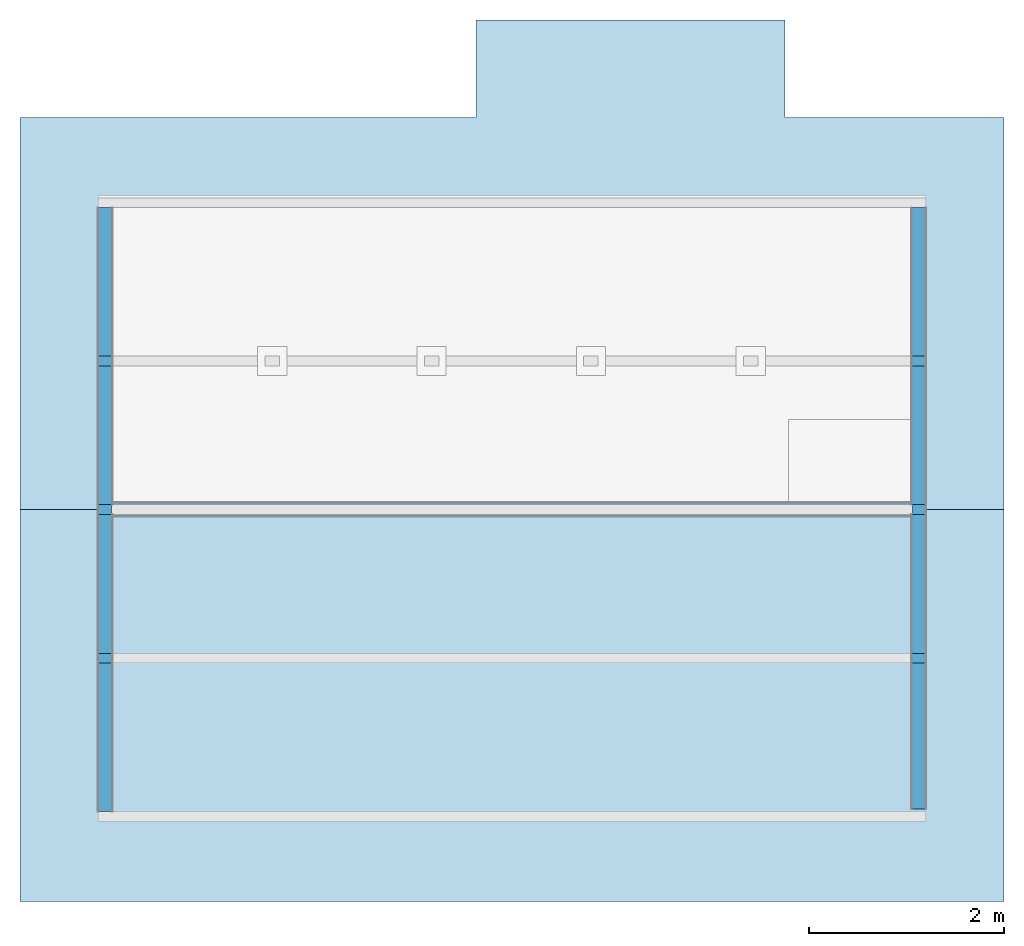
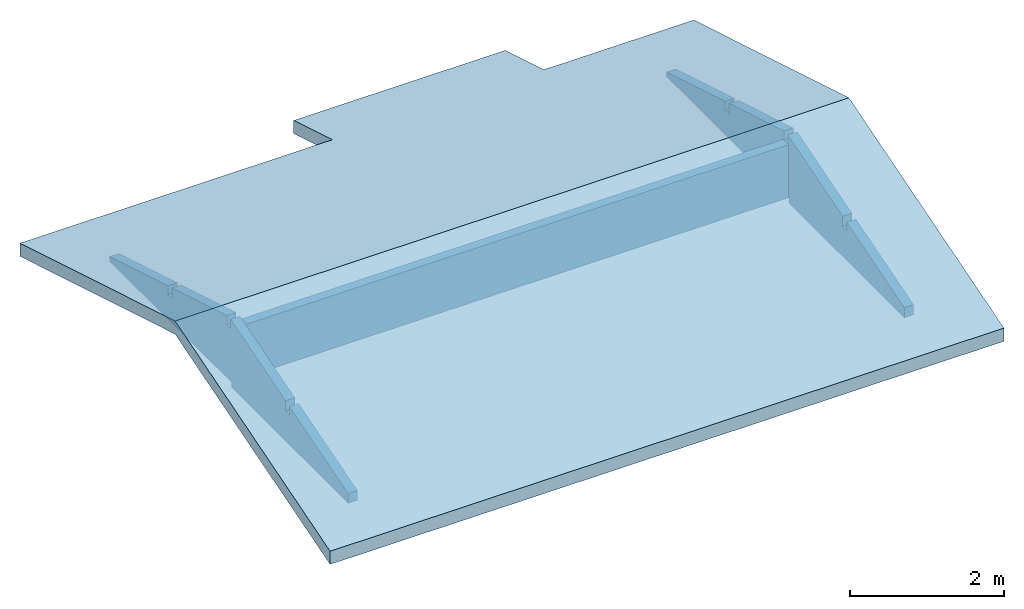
# One storey, part 2 of 4: 3 building element parts, 1 roof, 3 elements without a shape of their own.
"""IFC2X3 building model written with IfcOpenShell, lengths in millimetres."""

from ifc_helpers import new_model, entity, si_unit, converted_unit, derived_unit, money_unit, direction, frame, origin_with_axes, place, context, subcontext, project, spatial, polyline, outline, extrude, boolean, faceted_brep, material, type_object, element, aggregate, save


model = new_model("IFC2X3")

# Units and contexts
model_context = context("Model", 3, precision=0.01, world=origin_with_axes(), true_north=direction((0.0, 1.0)))
body_context = subcontext(model_context, "Body", "Model", "MODEL_VIEW")
ifc_project = project(units=[si_unit("LENGTHUNIT", "METRE", prefix="MILLI"), si_unit("AREAUNIT", "SQUARE_METRE"), si_unit("VOLUMEUNIT", "CUBIC_METRE"), converted_unit("PLANEANGLEUNIT", "DEGREE", entity("IfcPlaneAngleMeasure", 0.0174532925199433), si_unit("PLANEANGLEUNIT", "RADIAN"), dimensions=[0, 0, 0, 0, 0, 0, 0]), money_unit("USD"), converted_unit("TIMEUNIT", "Year", entity("IfcTimeMeasure", 31557600.0), si_unit("TIMEUNIT", "SECOND"), dimensions=[0, 0, 1, 0, 0, 0, 0]), si_unit("MASSUNIT", "GRAM", prefix="KILO"), si_unit("THERMODYNAMICTEMPERATUREUNIT", "DEGREE_CELSIUS"), si_unit("LUMINOUSINTENSITYUNIT", "LUMEN"), si_unit("ENERGYUNIT", "JOULE", prefix="MEGA"), derived_unit("THERMALCONDUCTANCEUNIT", [(si_unit("POWERUNIT", "WATT"), 1), (si_unit("LENGTHUNIT", "METRE"), -1), (si_unit("THERMODYNAMICTEMPERATUREUNIT", "KELVIN"), -1)]), derived_unit("SPECIFICHEATCAPACITYUNIT", [(si_unit("ENERGYUNIT", "JOULE"), 1), (si_unit("MASSUNIT", "GRAM", prefix="KILO"), -1), (si_unit("THERMODYNAMICTEMPERATUREUNIT", "KELVIN"), -1)]), derived_unit("MASSDENSITYUNIT", [(si_unit("MASSUNIT", "GRAM", prefix="KILO"), 1), (si_unit("VOLUMEUNIT", "CUBIC_METRE"), -1)])], contexts=[model_context])

# Site, building, storey
site_placement = place(None, origin_with_axes())
site = spatial("IfcSite", under=ifc_project, at=site_placement, Name="Local", CompositionType="ELEMENT")
building_placement = place(site_placement, origin_with_axes())
building = spatial("IfcBuilding", under=site, at=building_placement, Name="Construção", CompositionType="ELEMENT")
storey_placement = place(building_placement, frame((0.0, 0.0, 2500.0), z_axis=(0.0, 0.0, 1.0), x_axis=(1.0, 0.0, 0.0)))
storey = spatial("IfcBuildingStorey", under=building, at=storey_placement, Name="Cobertura", CompositionType="ELEMENT", Elevation=2500.0)

# Roof
ifc_material_1 = material(Name="Telha - Cobertura")
roof_placement = place(storey_placement, frame((4249.999999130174, 3725.000000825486, 115.4517409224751), z_axis=(0.0, 0.0, 1.0), x_axis=(1.0, 0.0, 0.0)))
element("IfcRoof", 1, at=roof_placement, inside=storey, material=ifc_material_1, Name="Cobert-01", ShapeType="NOTDEFINED", context=body_context, shape_type="Brep", body=[
    faceted_brep([(-5050.000000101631, 3525.000000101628, -31.19386988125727), (-5050.000000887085, -500.000000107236, 1176.306130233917), (5049.999999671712, -500.000000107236, 1176.306130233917), (5050.000000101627, 3525.000000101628, -31.19386988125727), (2800.000000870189, 3525.000000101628, -31.19386988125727), (2800.000000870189, 4525.000000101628, -331.1938698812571), (-369.9999991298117, 4525.000000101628, -331.1938698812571), (-369.9999991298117, 3525.000000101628, -31.19386988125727), (-5050.000000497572, 3525.000000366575, -240.0000003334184), (-5050.000001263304, -499.9999997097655, 967.4999999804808), (5050.000000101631, -4525.000000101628, -31.19386976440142), (-5050.000000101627, -4525.000000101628, -31.19386976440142), (5049.999999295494, -499.9999997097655, 967.4999999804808), (5050.000000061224, 3525.000000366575, -240.0000003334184), (2800.000000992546, 3525.000000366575, -240.0000003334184), (2800.000000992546, 4525.000000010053, -540.000000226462), (-369.9999989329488, 4525.000000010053, -540.000000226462), (-369.9999989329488, 3525.000000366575, -240.0000003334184), (-5050.000000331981, -4524.999999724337, -240.0000000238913), (5050.000000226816, -4524.999999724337, -240.0000000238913)], [[[0, 1, 2, 3, 4, 5, 6, 7]], [[8, 9, 1, 0]], [[10, 2, 1, 11]], [[3, 2, 12, 13]], [[13, 14, 4, 3]], [[14, 15, 5, 4]], [[15, 16, 6, 5]], [[16, 17, 7, 6]], [[17, 8, 0, 7]], [[13, 12, 9, 8, 17, 16, 15, 14]], [[11, 1, 9, 18]], [[19, 12, 2, 10]], [[18, 19, 10, 11]], [[18, 9, 12, 19]]]),
])

# Wall, building element part
wall_type = type_object("IfcWallType", Name="Alvenaria 140, Rebocada 2 Faces 150", PredefinedType="NOTDEFINED")
wall_1_placement = place(storey_placement, frame((8500.0, 149.9999999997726, 0.0), z_axis=(0.0, 0.0, 1.0), x_axis=(0.0, 1.0, 0.0)))
wall_1 = element("IfcWall", 2, at=wall_1_placement, inside=storey, type_object=wall_type, Name="Parede-10")
ifc_material_2 = material(Name="Bloco de Concreto - Estrutural DEF")
building_element_part_1_placement = place(wall_1_placement, origin_with_axes())
building_element_part_1 = element("IfcBuildingElementPart", 3, at=building_element_part_1_placement, material=ifc_material_2, Name="Bloco de Concreto - Estrutural DEF", context=body_context, shape_type="CSG", body=[
    boolean("DIFFERENCE", boolean("DIFFERENCE", boolean("DIFFERENCE", boolean("DIFFERENCE", boolean("DIFFERENCE", extrude(outline(polyline([(0.0, 5.000000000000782), (6175.000000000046, 5.000000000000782), (6175.000000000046, 144.9999999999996), (0.0, 144.9999999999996), (0.0, 5.000000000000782)])), origin_with_axes(), (0.0, 0.0, 1.0), 1176.306130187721), faceted_brep([(6175.000000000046, 5.000000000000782, 80.00000000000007), (6175.000000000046, 0.0, 80.00000000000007), (6175.000000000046, 0.0, 0.0), (6175.000000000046, 5.000000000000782, 0.0), (3000.000000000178, 0.0, 80.00000000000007), (3000.000000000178, 5.000000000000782, 80.00000000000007), (3000.000000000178, 0.0, 0.0), (3000.000000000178, 5.000000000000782, 0.0)], [[[0, 1, 2, 3]], [[4, 1, 0, 5]], [[4, 6, 2, 1]], [[6, 7, 3, 2]], [[5, 0, 3, 7]], [[6, 4, 5, 7]]])), faceted_brep([(4650.000000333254, 0.0, 480.4517407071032), (4650.000000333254, 0.0, 610.4517409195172), (6175.000000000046, 0.0, 152.951741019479), (6175.000000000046, 0.0, 1176.306130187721), (0.0, 0.0, 1176.306130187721), (0.0, 0.0, 160.4517405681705), (1500.000000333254, 0.0, 610.4517406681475), (1500.000000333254, 0.0, 480.4517406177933), (1600.000000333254, 0.0, 480.4517406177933), (1600.000000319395, 0.0, 640.4517406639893), (3025.000000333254, 0.0, 1067.951740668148), (3025.000000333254, 0.0, 922.9517406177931), (3125.000000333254, 0.0, 922.9517406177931), (3125.000000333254, 0.0, 1067.951740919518), (4550.000000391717, 0.0, 640.4517409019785), (4550.000000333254, 0.0, 480.4517407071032), (4650.000000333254, 5.000000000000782, 480.4517407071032), (4650.000000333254, 5.000000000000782, 610.4517409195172), (6175.000000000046, 5.000000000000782, 152.951741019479), (6175.000000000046, 5.000000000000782, 1176.306130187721), (0.0, 5.000000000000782, 1176.306130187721), (0.0, 5.000000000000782, 160.4517405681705), (1500.000000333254, 5.000000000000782, 610.4517406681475), (1500.000000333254, 5.000000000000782, 480.4517406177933), (1600.000000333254, 5.000000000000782, 480.4517406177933), (1600.000000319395, 5.000000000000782, 640.4517406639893), (3025.000000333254, 5.000000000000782, 1067.951740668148), (3025.000000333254, 5.000000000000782, 922.9517406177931), (3125.000000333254, 5.000000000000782, 922.9517406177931), (3125.000000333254, 5.000000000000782, 1067.951740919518), (4550.000000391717, 5.000000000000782, 640.4517409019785), (4550.000000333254, 5.000000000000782, 480.4517407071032)], [[[0, 1, 2, 3, 4, 5, 6, 7, 8, 9, 10, 11, 12, 13, 14, 15]], [[1, 0, 16, 17]], [[18, 2, 1, 17]], [[2, 18, 19, 3]], [[20, 4, 3, 19]], [[21, 5, 4, 20]], [[6, 5, 21, 22]], [[7, 6, 22, 23]], [[8, 7, 23, 24]], [[9, 8, 24, 25]], [[10, 9, 25, 26]], [[11, 10, 26, 27]], [[12, 11, 27, 28]], [[13, 12, 28, 29]], [[14, 13, 29, 30]], [[15, 14, 30, 31]], [[0, 15, 31, 16]], [[22, 21, 20, 19, 18, 17, 16, 31, 30, 29, 28, 27, 26, 25, 24, 23]]])), faceted_brep([(6175.000000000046, 144.9999999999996, 80.00000000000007), (6175.000000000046, 5.000000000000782, 80.00000000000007), (6175.000000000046, 5.000000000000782, 0.0), (6175.000000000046, 144.9999999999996, 0.0), (3000.000000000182, 144.9999999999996, 80.00000000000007), (3000.000000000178, 5.000000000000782, 80.00000000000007), (3000.000000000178, 5.000000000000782, 0.0), (3000.000000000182, 144.9999999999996, 0.0)], [[[0, 1, 2, 3]], [[1, 0, 4, 5]], [[5, 6, 2, 1]], [[6, 7, 3, 2]], [[0, 3, 7, 4]], [[7, 6, 5, 4]]])), faceted_brep([(4650.000000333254, 5.000000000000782, 480.4517407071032), (4650.000000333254, 5.000000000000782, 610.4517409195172), (6175.000000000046, 5.000000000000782, 152.951741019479), (6175.000000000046, 5.000000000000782, 1176.306130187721), (0.0, 5.000000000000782, 1176.306130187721), (0.0, 5.000000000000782, 160.4517405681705), (1500.000000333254, 5.000000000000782, 610.4517406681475), (1500.000000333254, 5.000000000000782, 480.4517406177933), (1600.000000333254, 5.000000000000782, 480.4517406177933), (1600.000000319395, 5.000000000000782, 640.4517406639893), (3025.000000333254, 5.000000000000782, 1067.951740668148), (3025.000000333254, 5.000000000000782, 922.9517406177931), (3125.000000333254, 5.000000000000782, 922.9517406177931), (3125.000000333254, 5.000000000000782, 1067.951740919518), (4550.000000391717, 5.000000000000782, 640.4517409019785), (4550.000000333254, 5.000000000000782, 480.4517407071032), (4650.000000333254, 144.9999999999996, 480.4517407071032), (4650.000000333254, 144.9999999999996, 610.4517409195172), (6175.000000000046, 144.9999999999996, 152.951741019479), (6175.000000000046, 144.9999999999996, 1176.306130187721), (0.0, 144.9999999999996, 1176.306130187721), (0.0, 144.9999999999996, 160.4517405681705), (1500.000000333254, 144.9999999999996, 610.4517406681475), (1500.000000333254, 144.9999999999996, 480.4517406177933), (1600.000000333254, 144.9999999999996, 480.4517406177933), (1600.000000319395, 144.9999999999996, 640.4517406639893), (3025.000000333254, 144.9999999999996, 1067.951740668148), (3025.000000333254, 144.9999999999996, 922.9517406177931), (3125.000000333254, 144.9999999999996, 922.9517406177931), (3125.000000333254, 144.9999999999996, 1067.951740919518), (4550.000000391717, 144.9999999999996, 640.4517409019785), (4550.000000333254, 144.9999999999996, 480.4517407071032)], [[[0, 1, 2, 3, 4, 5, 6, 7, 8, 9, 10, 11, 12, 13, 14, 15]], [[0, 16, 17, 1]], [[18, 2, 1, 17]], [[2, 18, 19, 3]], [[20, 4, 3, 19]], [[21, 5, 4, 20]], [[6, 5, 21, 22]], [[23, 7, 6, 22]], [[24, 8, 7, 23]], [[8, 24, 25, 9]], [[10, 9, 25, 26]], [[27, 11, 10, 26]], [[27, 28, 12, 11]], [[12, 28, 29, 13]], [[14, 13, 29, 30]], [[31, 15, 14, 30]], [[16, 0, 15, 31]], [[22, 21, 20, 19, 18, 17, 16, 31, 30, 29, 28, 27, 26, 25, 24, 23]]])), faceted_brep([(4650.000000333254, 144.9999999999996, 480.4517407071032), (4650.000000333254, 144.9999999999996, 610.4517409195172), (6175.000000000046, 144.9999999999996, 152.951741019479), (6175.000000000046, 144.9999999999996, 1176.306130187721), (0.0, 144.9999999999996, 1176.306130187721), (0.0, 144.9999999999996, 160.4517405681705), (1500.000000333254, 144.9999999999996, 610.4517406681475), (1500.000000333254, 144.9999999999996, 480.4517406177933), (1600.000000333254, 144.9999999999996, 480.4517406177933), (1600.000000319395, 144.9999999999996, 640.4517406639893), (3025.000000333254, 144.9999999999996, 1067.951740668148), (3025.000000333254, 144.9999999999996, 922.9517406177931), (3005.000000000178, 144.9999999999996, 922.9517406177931), (3005.000000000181, 144.9999999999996, 80.00000000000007), (3000.000000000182, 144.9999999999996, 80.00000000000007), (3000.000000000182, 144.9999999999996, 0.0), (6175.000000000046, 144.9999999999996, 0.0), (6175.000000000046, 144.9999999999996, 80.00000000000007), (3145.000000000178, 144.9999999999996, 80.00000000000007), (3145.000000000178, 144.9999999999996, 922.9517406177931), (3125.000000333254, 144.9999999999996, 922.9517406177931), (3125.000000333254, 144.9999999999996, 1067.951740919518), (4550.000000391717, 144.9999999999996, 640.4517409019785), (4550.000000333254, 144.9999999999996, 480.4517407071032), (4650.000000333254, 150.0000000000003, 480.4517407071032), (4650.000000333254, 150.0000000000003, 610.4517409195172), (6175.000000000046, 150.0000000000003, 152.9517410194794), (6175.000000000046, 150.0000000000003, 1176.306130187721), (0.0, 150.0000000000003, 1176.306130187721), (0.0, 150.0000000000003, 160.4517405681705), (1500.000000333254, 150.0000000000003, 610.4517406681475), (1500.000000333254, 150.0000000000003, 480.4517406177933), (1600.000000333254, 150.0000000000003, 480.4517406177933), (1600.000000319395, 150.0000000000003, 640.4517406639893), (3025.000000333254, 150.0000000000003, 1067.951740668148), (3025.000000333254, 150.0000000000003, 922.9517406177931), (3005.000000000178, 150.0000000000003, 922.9517406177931), (3005.000000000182, 150.0000000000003, 80.00000000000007), (3000.000000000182, 150.0000000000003, 80.00000000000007), (3000.000000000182, 150.0000000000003, 0.0), (6175.000000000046, 150.0000000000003, 0.0), (6175.000000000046, 150.0000000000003, 80.00000000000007), (3145.000000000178, 150.0000000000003, 80.00000000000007), (3145.000000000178, 150.0000000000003, 922.9517406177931), (3125.000000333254, 149.9999999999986, 922.9517406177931), (3125.000000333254, 150.0000000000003, 1067.951740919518), (4550.000000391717, 150.0000000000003, 640.4517409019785), (4550.000000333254, 150.0000000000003, 480.4517407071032)], [[[0, 1, 2, 3, 4, 5, 6, 7, 8, 9, 10, 11, 12, 13, 14, 15, 16, 17, 18, 19, 20, 21, 22, 23]], [[24, 25, 1, 0]], [[26, 2, 1, 25]], [[2, 26, 27, 3]], [[28, 4, 3, 27]], [[29, 5, 4, 28]], [[6, 5, 29, 30]], [[30, 31, 7, 6]], [[31, 32, 8, 7]], [[32, 33, 9, 8]], [[10, 9, 33, 34]], [[34, 35, 11, 10]], [[12, 11, 35, 36]], [[13, 12, 36, 37]], [[37, 38, 14, 13]], [[39, 15, 14, 38]], [[15, 39, 40, 16]], [[41, 17, 16, 40]], [[17, 41, 42, 18]], [[19, 18, 42, 43]], [[20, 19, 43, 44]], [[44, 45, 21, 20]], [[22, 21, 45, 46]], [[46, 47, 23, 22]], [[47, 24, 0, 23]], [[42, 41, 40, 39, 38, 37, 36, 35, 34, 33, 32, 31, 30, 29, 28, 27, 26, 25, 24, 47, 46, 45, 44, 43]]])),
])
aggregate(wall_1, [building_element_part_1])

wall_2_placement = place(storey_placement, frame((0.0, 6325.000000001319, 0.0), z_axis=(0.0, 0.0, 1.0), x_axis=(0.0, -1.0, 0.0)))
wall_2 = element("IfcWall", 4, at=wall_2_placement, inside=storey, type_object=wall_type, Name="Parede-09")
building_element_part_2_placement = place(wall_2_placement, origin_with_axes())
building_element_part_2 = element("IfcBuildingElementPart", 5, at=building_element_part_2_placement, material=ifc_material_2, Name="Bloco de Concreto - Estrutural DEF", context=body_context, shape_type="CSG", body=[
    boolean("DIFFERENCE", boolean("DIFFERENCE", boolean("DIFFERENCE", boolean("DIFFERENCE", boolean("DIFFERENCE", extrude(outline(polyline([(0.0, 4.999999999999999), (6200.000000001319, 4.999999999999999), (6200.000000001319, 145.0), (0.0, 145.0), (0.0, 4.999999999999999)])), origin_with_axes(), (0.0, 0.0, 1.0), 1176.306130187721), faceted_brep([(0.0, 0.0, 80.00000000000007), (0.0, 4.999999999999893, 80.00000000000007), (0.0, 5.000000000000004, 0.0), (0.0, 0.0, 0.0), (3175.000000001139, 0.0, 80.00000000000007), (3175.000000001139, 4.999999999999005, 80.00000000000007), (3175.000000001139, 4.999999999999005, 0.0), (3175.000000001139, 0.0, 0.0)], [[[0, 1, 2, 3]], [[1, 0, 4, 5]], [[5, 6, 2, 1]], [[6, 7, 3, 2]], [[4, 0, 3, 7]], [[7, 6, 5, 4]]])), faceted_brep([(1524.999999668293, 4.999999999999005, 480.4517407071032), (1524.999999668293, 4.999999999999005, 610.4517409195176), (0.0, 4.999999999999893, 152.9517410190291), (0.0, 5.000000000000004, 1176.306130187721), (6200.000000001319, 5.000000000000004, 1176.306130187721), (6200.000000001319, 4.999999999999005, 152.951740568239), (4674.999999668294, 4.999999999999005, 610.4517406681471), (4674.999999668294, 4.999999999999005, 480.4517406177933), (4574.999999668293, 4.999999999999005, 480.4517406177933), (4574.999999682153, 4.999999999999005, 640.4517406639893), (3149.999999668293, 4.999999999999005, 1067.951740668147), (3149.999999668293, 4.999999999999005, 922.9517406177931), (3049.999999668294, 4.999999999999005, 922.9517406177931), (3049.999999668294, 4.999999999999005, 1067.951740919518), (1624.99999960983, 4.999999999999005, 640.4517409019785), (1624.999999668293, 4.999999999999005, 480.4517407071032), (1524.999999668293, 0.0, 480.4517407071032), (1524.999999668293, 0.0, 610.4517409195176), (0.0, 0.0, 152.9517410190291), (0.0, 0.0, 1176.306130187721), (6200.000000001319, 0.0, 1176.306130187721), (6200.000000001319, 0.0, 152.951740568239), (4674.999999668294, 0.0, 610.4517406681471), (4674.999999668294, 0.0, 480.4517406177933), (4574.999999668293, 0.0, 480.4517406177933), (4574.999999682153, 0.0, 640.4517406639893), (3149.999999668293, 0.0, 1067.951740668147), (3149.999999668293, 0.0, 922.9517406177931), (3049.999999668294, 0.0, 922.9517406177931), (3049.999999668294, 0.0, 1067.951740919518), (1624.99999960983, 0.0, 640.4517409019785), (1624.999999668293, 0.0, 480.4517407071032)], [[[0, 1, 2, 3, 4, 5, 6, 7, 8, 9, 10, 11, 12, 13, 14, 15]], [[16, 17, 1, 0]], [[18, 2, 1, 17]], [[2, 18, 19, 3]], [[3, 19, 20, 4]], [[21, 5, 4, 20]], [[6, 5, 21, 22]], [[22, 23, 7, 6]], [[23, 24, 8, 7]], [[24, 25, 9, 8]], [[10, 9, 25, 26]], [[26, 27, 11, 10]], [[27, 28, 12, 11]], [[28, 29, 13, 12]], [[14, 13, 29, 30]], [[30, 31, 15, 14]], [[31, 16, 0, 15]], [[22, 21, 20, 19, 18, 17, 16, 31, 30, 29, 28, 27, 26, 25, 24, 23]]])), faceted_brep([(0.0, 4.999999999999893, 80.00000000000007), (0.0, 144.9999999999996, 80.00000000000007), (0.0, 145.0, 0.0), (0.0, 5.000000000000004, 0.0), (3175.000000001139, 4.999999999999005, 80.00000000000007), (3175.000000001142, 144.9999999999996, 80.00000000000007), (3175.000000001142, 144.9999999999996, 0.0), (3175.000000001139, 4.999999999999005, 0.0)], [[[0, 1, 2, 3]], [[1, 0, 4, 5]], [[5, 6, 2, 1]], [[6, 7, 3, 2]], [[4, 0, 3, 7]], [[7, 6, 5, 4]]])), faceted_brep([(1524.999999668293, 144.9999999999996, 480.4517407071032), (1524.999999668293, 144.9999999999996, 610.4517409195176), (0.0, 144.9999999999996, 152.9517410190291), (0.0, 145.0, 1176.306130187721), (6200.000000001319, 145.0, 1176.306130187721), (6200.000000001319, 144.9999999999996, 152.951740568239), (4674.999999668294, 144.9999999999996, 610.4517406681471), (4674.999999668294, 144.9999999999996, 480.4517406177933), (4574.999999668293, 144.9999999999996, 480.4517406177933), (4574.999999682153, 144.9999999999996, 640.4517406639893), (3149.999999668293, 144.9999999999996, 1067.951740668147), (3149.999999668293, 144.9999999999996, 922.9517406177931), (3049.999999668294, 144.9999999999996, 922.9517406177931), (3049.999999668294, 144.9999999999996, 1067.951740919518), (1624.99999960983, 144.9999999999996, 640.4517409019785), (1624.999999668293, 144.9999999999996, 480.4517407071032), (1524.999999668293, 4.999999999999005, 480.4517407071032), (1524.999999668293, 4.999999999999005, 610.4517409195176), (0.0, 4.999999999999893, 152.9517410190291), (0.0, 5.000000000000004, 1176.306130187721), (6200.000000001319, 5.000000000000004, 1176.306130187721), (6200.000000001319, 4.999999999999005, 152.951740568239), (4674.999999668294, 4.999999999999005, 610.4517406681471), (4674.999999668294, 4.999999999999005, 480.4517406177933), (4574.999999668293, 4.999999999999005, 480.4517406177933), (4574.999999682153, 4.999999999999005, 640.4517406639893), (3149.999999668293, 4.999999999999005, 1067.951740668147), (3149.999999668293, 4.999999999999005, 922.9517406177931), (3049.999999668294, 4.999999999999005, 922.9517406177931), (3049.999999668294, 4.999999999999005, 1067.951740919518), (1624.99999960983, 4.999999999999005, 640.4517409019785), (1624.999999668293, 4.999999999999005, 480.4517407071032)], [[[0, 1, 2, 3, 4, 5, 6, 7, 8, 9, 10, 11, 12, 13, 14, 15]], [[0, 16, 17, 1]], [[18, 2, 1, 17]], [[2, 18, 19, 3]], [[3, 19, 20, 4]], [[21, 5, 4, 20]], [[6, 5, 21, 22]], [[23, 7, 6, 22]], [[7, 23, 24, 8]], [[8, 24, 25, 9]], [[10, 9, 25, 26]], [[27, 11, 10, 26]], [[12, 11, 27, 28]], [[12, 28, 29, 13]], [[14, 13, 29, 30]], [[31, 15, 14, 30]], [[15, 31, 16, 0]], [[22, 21, 20, 19, 18, 17, 16, 31, 30, 29, 28, 27, 26, 25, 24, 23]]])), faceted_brep([(1524.999999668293, 150.0000000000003, 480.4517407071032), (1524.999999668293, 150.0000000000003, 610.4517409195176), (0.0, 150.0000000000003, 152.9517410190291), (0.0, 150.0, 1176.306130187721), (6200.000000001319, 150.0, 1176.306130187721), (6200.000000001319, 149.9999999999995, 152.9517405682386), (4674.999999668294, 149.9999999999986, 610.4517406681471), (4674.999999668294, 149.9999999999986, 480.4517406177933), (4574.999999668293, 150.0000000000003, 480.4517406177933), (4574.999999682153, 150.0000000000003, 640.4517406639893), (3149.999999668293, 149.9999999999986, 1067.951740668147), (3149.999999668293, 149.9999999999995, 922.9517406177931), (3170.000000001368, 149.9999999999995, 922.9517406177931), (3170.000000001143, 149.9999999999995, 80.00000000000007), (3175.000000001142, 149.9999999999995, 80.00000000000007), (3175.000000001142, 149.9999999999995, 0.0), (0.0, 150.0, 0.0), (0.0, 150.0000000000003, 80.00000000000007), (3030.000000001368, 150.0000000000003, 80.00000000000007), (3030.000000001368, 149.9999999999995, 922.9517406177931), (3049.999999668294, 149.9999999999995, 922.9517406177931), (3049.999999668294, 150.0000000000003, 1067.951740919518), (1624.99999960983, 149.9999999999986, 640.4517409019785), (1624.999999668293, 149.9999999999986, 480.4517407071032), (1524.999999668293, 144.9999999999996, 480.4517407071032), (1524.999999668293, 144.9999999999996, 610.4517409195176), (0.0, 144.9999999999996, 152.9517410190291), (0.0, 145.0, 1176.306130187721), (6200.000000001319, 145.0, 1176.306130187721), (6200.000000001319, 144.9999999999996, 152.951740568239), (4674.999999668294, 144.9999999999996, 610.4517406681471), (4674.999999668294, 144.9999999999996, 480.4517406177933), (4574.999999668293, 144.9999999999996, 480.4517406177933), (4574.999999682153, 144.9999999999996, 640.4517406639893), (3149.999999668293, 144.9999999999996, 1067.951740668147), (3149.999999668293, 144.9999999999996, 922.9517406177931), (3170.000000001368, 144.9999999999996, 922.9517406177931), (3170.000000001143, 144.9999999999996, 80.00000000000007), (3175.000000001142, 144.9999999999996, 80.00000000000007), (3175.000000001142, 144.9999999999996, 0.0), (0.0, 145.0, 0.0), (0.0, 144.9999999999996, 80.00000000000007), (3030.000000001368, 144.9999999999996, 80.00000000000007), (3030.000000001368, 144.9999999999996, 922.9517406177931), (3049.999999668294, 144.9999999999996, 922.9517406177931), (3049.999999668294, 144.9999999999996, 1067.951740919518), (1624.99999960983, 144.9999999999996, 640.4517409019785), (1624.999999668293, 144.9999999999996, 480.4517407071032)], [[[0, 1, 2, 3, 4, 5, 6, 7, 8, 9, 10, 11, 12, 13, 14, 15, 16, 17, 18, 19, 20, 21, 22, 23]], [[1, 0, 24, 25]], [[26, 2, 1, 25]], [[2, 26, 27, 3]], [[3, 27, 28, 4]], [[29, 5, 4, 28]], [[6, 5, 29, 30]], [[7, 6, 30, 31]], [[8, 7, 31, 32]], [[9, 8, 32, 33]], [[10, 9, 33, 34]], [[11, 10, 34, 35]], [[12, 11, 35, 36]], [[13, 12, 36, 37]], [[14, 13, 37, 38]], [[15, 14, 38, 39]], [[15, 39, 40, 16]], [[41, 17, 16, 40]], [[18, 17, 41, 42]], [[19, 18, 42, 43]], [[20, 19, 43, 44]], [[21, 20, 44, 45]], [[22, 21, 45, 46]], [[23, 22, 46, 47]], [[0, 23, 47, 24]], [[42, 41, 40, 39, 38, 37, 36, 35, 34, 33, 32, 31, 30, 29, 28, 27, 26, 25, 24, 47, 46, 45, 44, 43]]])),
])
aggregate(wall_2, [building_element_part_2])

wall_3_placement = place(storey_placement, frame((8500.0, 3299.99999999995, 0.0), z_axis=(0.0, 0.0, 1.0), x_axis=(-1.0, 0.0, 0.0)))
wall_3 = element("IfcWall", 6, at=wall_3_placement, inside=storey, type_object=wall_type, Name="Parede-11")
building_element_part_3_placement = place(wall_3_placement, origin_with_axes())
building_element_part_3 = element("IfcBuildingElementPart", 7, at=building_element_part_3_placement, material=ifc_material_2, Name="Bloco de Concreto - Estrutural DEF", context=body_context, shape_type="CSG", body=[
    boolean("DIFFERENCE", boolean("DIFFERENCE", boolean("DIFFERENCE", extrude(outline(polyline([(0.0, 4.999999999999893), (8500.0, 4.999999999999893), (8500.0, 145.0), (0.0, 145.0), (0.0, 4.999999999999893)])), origin_with_axes(), (0.0, 0.0, 1.0), 922.9517406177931), faceted_brep([(8350.0, 2.255973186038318e-10, 80.00000000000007), (150.0000000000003, 0.0, 80.00000000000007), (150.0000000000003, 0.0, 922.9517406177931), (0.0, 0.0, 922.9517406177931), (0.0, 0.0, 0.0), (8500.0, 0.0, 0.0), (8500.0, 0.0, 922.9517406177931), (8350.0, 2.255973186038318e-10, 922.9517406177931), (8350.0, 5.000000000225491, 80.00000000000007), (150.0000000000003, 5.00000000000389, 80.00000000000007), (150.0000000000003, 5.00000000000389, 922.9517406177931), (0.0, 4.999999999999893, 922.9517406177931), (0.0, 4.999999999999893, 0.0), (8500.0, 4.999999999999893, 0.0), (8500.0, 4.999999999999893, 922.9517406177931), (8350.0, 5.000000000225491, 922.9517406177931)], [[[0, 1, 2, 3, 4, 5, 6, 7]], [[1, 0, 8, 9]], [[10, 2, 1, 9]], [[2, 10, 11, 3]], [[11, 12, 4, 3]], [[5, 4, 12, 13]], [[6, 5, 13, 14]], [[15, 7, 6, 14]], [[0, 7, 15, 8]], [[8, 15, 14, 13, 12, 11, 10, 9]]])), faceted_brep([(144.9999999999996, 5.00000000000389, 80.00000000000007), (144.9999999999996, 5.00000000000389, 922.9517406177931), (0.0, 4.999999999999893, 922.9517406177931), (0.0, 4.999999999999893, 0.0), (8500.0, 4.999999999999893, 0.0), (8500.0, 4.999999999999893, 922.9517406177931), (8355.0, 5.000000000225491, 922.9517406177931), (8355.0, 5.000000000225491, 80.00000000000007), (144.999999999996, 145.000000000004, 922.9517406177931), (144.999999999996, 145.000000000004, 80.00000000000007), (0.0, 145.0, 922.9517406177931), (0.0, 145.0, 0.0), (8500.0, 145.0, 0.0), (8500.0, 145.0, 922.9517406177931), (8354.999999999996, 145.0000000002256, 922.9517406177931), (8354.999999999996, 145.0000000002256, 80.00000000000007)], [[[0, 1, 2, 3, 4, 5, 6, 7]], [[8, 1, 0, 9]], [[1, 8, 10, 2]], [[10, 11, 3, 2]], [[4, 3, 11, 12]], [[5, 4, 12, 13]], [[14, 6, 5, 13]], [[7, 6, 14, 15]], [[0, 7, 15, 9]], [[15, 14, 13, 12, 11, 10, 8, 9]]])), faceted_brep([(8349.999999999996, 145.0000000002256, 80.00000000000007), (149.9999999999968, 145.000000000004, 80.00000000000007), (149.9999999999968, 145.000000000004, 922.9517406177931), (0.0, 145.0, 922.9517406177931), (0.0, 145.0, 0.0), (8500.0, 145.0, 0.0), (8500.0, 145.0, 922.9517406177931), (8349.999999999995, 145.0000000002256, 922.9517406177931), (8349.999999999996, 150.0000000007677, 80.00000000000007), (149.9999999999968, 150.0000000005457, 80.00000000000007), (149.9999999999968, 150.0000000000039, 922.9517406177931), (0.0, 149.9999999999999, 922.9517406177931), (0.0, 149.9999999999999, 0.0), (8500.0, 149.9999999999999, 0.0), (8500.0, 149.9999999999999, 922.9517406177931), (8349.999999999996, 150.0000000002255, 922.9517406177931)], [[[0, 1, 2, 3, 4, 5, 6, 7]], [[8, 9, 1, 0]], [[10, 2, 1, 9]], [[2, 10, 11, 3]], [[11, 12, 4, 3]], [[5, 4, 12, 13]], [[6, 5, 13, 14]], [[15, 7, 6, 14]], [[0, 7, 15, 8]], [[8, 15, 14, 13, 12, 11, 10, 9]]])),
])
aggregate(wall_3, [building_element_part_3])

save(model, "model.ifc")
